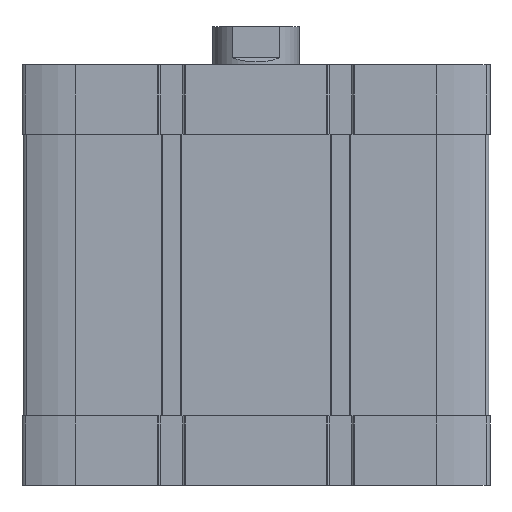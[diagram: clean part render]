
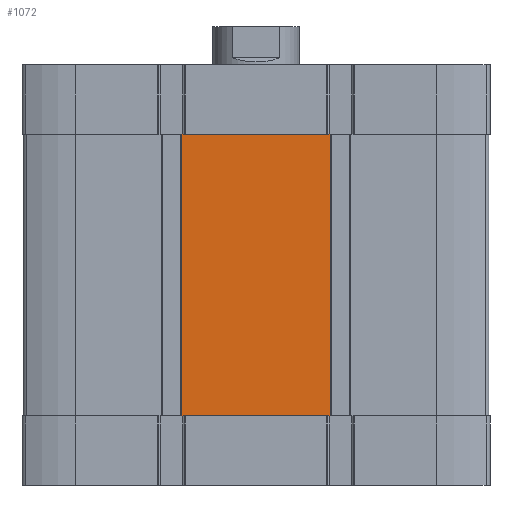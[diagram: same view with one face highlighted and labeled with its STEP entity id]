
A CAD part, front view. The second image highlights one B-rep face of the part: STEP entity #1072.
In plain terms, the highlighted planar face has unit normal (0, -1, 0).
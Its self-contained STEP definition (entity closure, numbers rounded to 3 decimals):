
#403 = LINE ( 'NONE', #15015, #15769 ) ;
#435 = CARTESIAN_POINT ( 'NONE',  ( 20.687, -67., -20. ) ) ;
#502 = VECTOR ( 'NONE', #8268, 1000. ) ;
#1072 = ADVANCED_FACE ( 'NONE', ( #6712 ), #5234, .T. ) ;
#1558 = CARTESIAN_POINT ( 'NONE',  ( 21.3, -67., -20. ) ) ;
#1584 = CARTESIAN_POINT ( 'NONE',  ( -21.3, -67., -101. ) ) ;
#1743 = CARTESIAN_POINT ( 'NONE',  ( -20.687, -67., -20. ) ) ;
#1892 = EDGE_LOOP ( 'NONE', ( #4052, #12831, #15076, #6141, #7259, #10033, #11215, #11569 ) ) ;
#3107 = VECTOR ( 'NONE', #12477, 1000. ) ;
#3177 = CARTESIAN_POINT ( 'NONE',  ( 21.3, -67., -101. ) ) ;
#3255 = EDGE_CURVE ( 'NONE', #4945, #4954, #10794, .T. ) ;
#3299 = CARTESIAN_POINT ( 'NONE',  ( -21.3, -67., -101. ) ) ;
#3301 = DIRECTION ( 'NONE',  ( 0., 0., 1. ) ) ;
#3331 = LINE ( 'NONE', #7596, #7157 ) ;
#3339 = EDGE_CURVE ( 'NONE', #10501, #14390, #12351, .T. ) ;
#3855 = LINE ( 'NONE', #15929, #9783 ) ;
#4039 = CARTESIAN_POINT ( 'NONE',  ( -21.3, -67., -20. ) ) ;
#4052 = ORIENTED_EDGE ( 'NONE', *, *, #3339, .F. ) ;
#4563 = VERTEX_POINT ( 'NONE', #8632 ) ;
#4893 = DIRECTION ( 'NONE',  ( 1., 0., 0. ) ) ;
#4945 = VERTEX_POINT ( 'NONE', #1743 ) ;
#4954 = VERTEX_POINT ( 'NONE', #435 ) ;
#5171 = CARTESIAN_POINT ( 'NONE',  ( 20.687, -67., -101. ) ) ;
#5234 = PLANE ( 'NONE',  #11026 ) ;
#5744 = CARTESIAN_POINT ( 'NONE',  ( -21.3, -67., -101. ) ) ;
#6141 = ORIENTED_EDGE ( 'NONE', *, *, #7316, .T. ) ;
#6712 = FACE_OUTER_BOUND ( 'NONE', #1892, .T. ) ;
#6769 = VERTEX_POINT ( 'NONE', #3177 ) ;
#7028 = DIRECTION ( 'NONE',  ( 1., 0., 0. ) ) ;
#7157 = VECTOR ( 'NONE', #4893, 1000. ) ;
#7259 = ORIENTED_EDGE ( 'NONE', *, *, #10972, .T. ) ;
#7316 = EDGE_CURVE ( 'NONE', #13238, #6769, #3331, .T. ) ;
#7596 = CARTESIAN_POINT ( 'NONE',  ( -67., -67., -101. ) ) ;
#7882 = DIRECTION ( 'NONE',  ( 0., 0., 1. ) ) ;
#8268 = DIRECTION ( 'NONE',  ( 1., 0., 0. ) ) ;
#8632 = CARTESIAN_POINT ( 'NONE',  ( -20.687, -67., -101. ) ) ;
#9009 = LINE ( 'NONE', #14394, #9947 ) ;
#9161 = DIRECTION ( 'NONE',  ( 1., 0., 0. ) ) ;
#9376 = VECTOR ( 'NONE', #14259, 1000. ) ;
#9783 = VECTOR ( 'NONE', #9161, 1000. ) ;
#9947 = VECTOR ( 'NONE', #7882, 1000. ) ;
#9985 = EDGE_CURVE ( 'NONE', #4563, #13238, #13486, .T. ) ;
#10033 = ORIENTED_EDGE ( 'NONE', *, *, #10759, .F. ) ;
#10288 = VERTEX_POINT ( 'NONE', #1558 ) ;
#10501 = VERTEX_POINT ( 'NONE', #3299 ) ;
#10528 = CARTESIAN_POINT ( 'NONE',  ( -67., -67., -101. ) ) ;
#10759 = EDGE_CURVE ( 'NONE', #4954, #10288, #403, .T. ) ;
#10794 = LINE ( 'NONE', #17138, #502 ) ;
#10972 = EDGE_CURVE ( 'NONE', #6769, #10288, #9009, .T. ) ;
#11026 = AXIS2_PLACEMENT_3D ( 'NONE', #10528, #15824, #12002 ) ;
#11215 = ORIENTED_EDGE ( 'NONE', *, *, #3255, .F. ) ;
#11569 = ORIENTED_EDGE ( 'NONE', *, *, #16385, .F. ) ;
#12002 = DIRECTION ( 'NONE',  ( 0., 0., -1. ) ) ;
#12351 = LINE ( 'NONE', #5744, #14103 ) ;
#12477 = DIRECTION ( 'NONE',  ( 1., 0., 0. ) ) ;
#12831 = ORIENTED_EDGE ( 'NONE', *, *, #14813, .T. ) ;
#13238 = VERTEX_POINT ( 'NONE', #5171 ) ;
#13486 = LINE ( 'NONE', #1584, #9376 ) ;
#13687 = CARTESIAN_POINT ( 'NONE',  ( -67., -67., -20. ) ) ;
#14103 = VECTOR ( 'NONE', #3301, 1000. ) ;
#14259 = DIRECTION ( 'NONE',  ( 1., 0., 0. ) ) ;
#14390 = VERTEX_POINT ( 'NONE', #4039 ) ;
#14394 = CARTESIAN_POINT ( 'NONE',  ( 21.3, -67., -101. ) ) ;
#14813 = EDGE_CURVE ( 'NONE', #10501, #4563, #3855, .T. ) ;
#15015 = CARTESIAN_POINT ( 'NONE',  ( -67., -67., -20. ) ) ;
#15076 = ORIENTED_EDGE ( 'NONE', *, *, #9985, .T. ) ;
#15769 = VECTOR ( 'NONE', #7028, 1000. ) ;
#15824 = DIRECTION ( 'NONE',  ( 0., -1., 0. ) ) ;
#15929 = CARTESIAN_POINT ( 'NONE',  ( -67., -67., -101. ) ) ;
#16309 = LINE ( 'NONE', #13687, #3107 ) ;
#16385 = EDGE_CURVE ( 'NONE', #14390, #4945, #16309, .T. ) ;
#17138 = CARTESIAN_POINT ( 'NONE',  ( -21.3, -67., -20. ) ) ;
